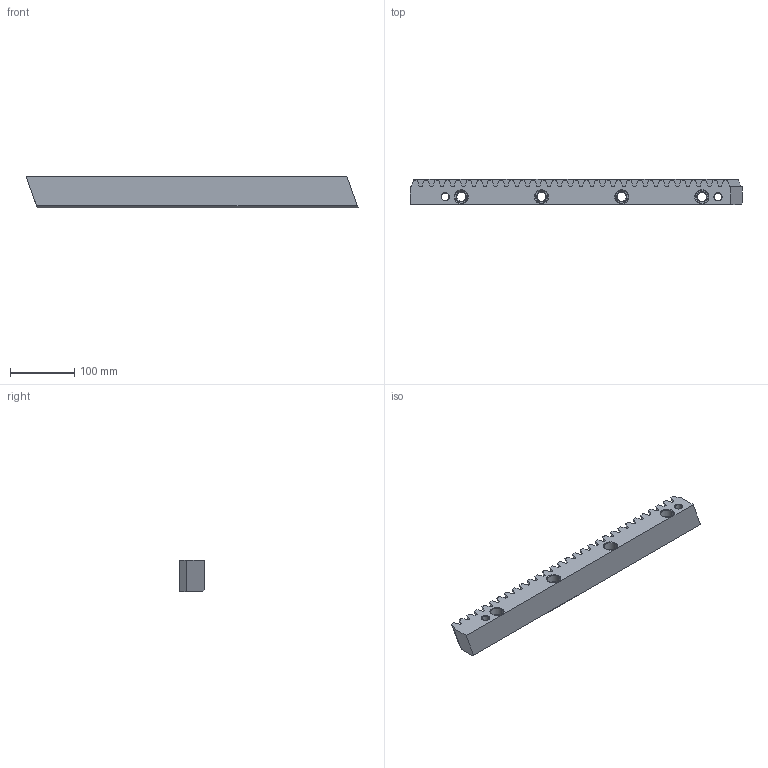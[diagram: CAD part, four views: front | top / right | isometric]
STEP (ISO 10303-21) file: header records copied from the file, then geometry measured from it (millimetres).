
FILE_DESCRIPTION (( 'STEP AP214' ), '1' );
FILE_NAME ('1HR35R050050H.STEP', '2021-12-06T09:58:22', ( '' ), ( '' ), 'SwSTEP 2.0', 'SolidWorks 2021', '' );
FILE_SCHEMA (( 'AUTOMOTIVE_DESIGN' ));
Length unit declared in the file: millimetre
Products named in the file (1): 1HR35R050050H
Bounding box: 517.38 x 39 x 49 mm (x, y, z)
Volume: 773362.2 mm3; surface area: 119505.1 mm2
Topology: 1 solids, 1 shells, 351 faces, 1015 edges, 670 vertices
Faces by surface type: plane 191, cylinder 140, cone 20
Entity records: 11387 total; most frequent: CARTESIAN_POINT 2757, ORIENTED_EDGE 2030, DIRECTION 1539, EDGE_CURVE 1015, LINE 715, VECTOR 715, VERTEX_POINT 670, AXIS2_PLACEMENT_3D 412
